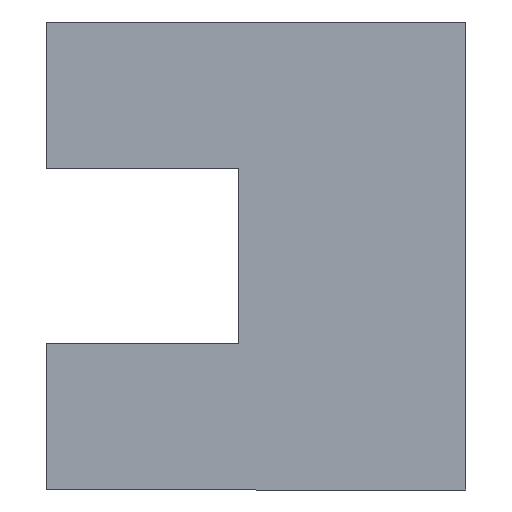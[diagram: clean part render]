
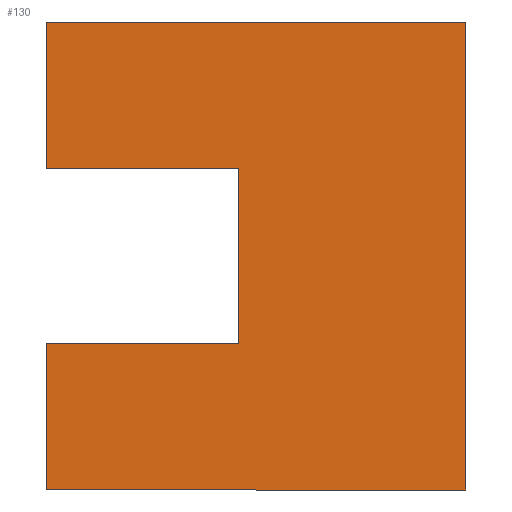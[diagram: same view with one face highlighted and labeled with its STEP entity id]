
A CAD part, left-side view. The second image highlights one B-rep face of the part: STEP entity #130.
In plain terms, the highlighted planar face has unit normal (-1, 0, 0) as drawn and (0, 0, -1) by its records, which use the part's own axes.
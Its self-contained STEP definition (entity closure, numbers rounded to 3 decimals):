
#31 = VERTEX_POINT ( 'NONE', #259 ) ;
#72 = EDGE_CURVE ( 'NONE', #31, #73, #494, .T. ) ;
#73 = VERTEX_POINT ( 'NONE', #490 ) ;
#119 = EDGE_CURVE ( 'NONE', #233, #120, #532, .T. ) ;
#120 = VERTEX_POINT ( 'NONE', #528 ) ;
#123 = ORIENTED_EDGE ( 'NONE', *, *, #124, .T. ) ;
#124 = EDGE_CURVE ( 'NONE', #134, #125, #589, .T. ) ;
#125 = VERTEX_POINT ( 'NONE', #585 ) ;
#126 = ORIENTED_EDGE ( 'NONE', *, *, #127, .T. ) ;
#127 = EDGE_CURVE ( 'NONE', #125, #120, #584, .T. ) ;
#130 = ADVANCED_FACE ( 'NONE', ( #580 ), #579, .T. ) ;
#131 = EDGE_LOOP ( 'NONE', ( #132, #123, #126, #234, #235, #225, #135, #136 ) ) ;
#132 = ORIENTED_EDGE ( 'NONE', *, *, #133, .T. ) ;
#133 = EDGE_CURVE ( 'NONE', #302, #134, #574, .T. ) ;
#134 = VERTEX_POINT ( 'NONE', #570 ) ;
#135 = ORIENTED_EDGE ( 'NONE', *, *, #201, .F. ) ;
#136 = ORIENTED_EDGE ( 'NONE', *, *, #212, .F. ) ;
#201 = EDGE_CURVE ( 'NONE', #213, #31, #677, .T. ) ;
#212 = EDGE_CURVE ( 'NONE', #302, #213, #664, .T. ) ;
#213 = VERTEX_POINT ( 'NONE', #724 ) ;
#225 = ORIENTED_EDGE ( 'NONE', *, *, #72, .F. ) ;
#232 = EDGE_CURVE ( 'NONE', #73, #233, #711, .T. ) ;
#233 = VERTEX_POINT ( 'NONE', #707 ) ;
#234 = ORIENTED_EDGE ( 'NONE', *, *, #119, .F. ) ;
#235 = ORIENTED_EDGE ( 'NONE', *, *, #232, .F. ) ;
#259 = CARTESIAN_POINT ( 'NONE',  ( -6.7, 0., -3. ) ) ;
#302 = VERTEX_POINT ( 'NONE', #726 ) ;
#490 = CARTESIAN_POINT ( 'NONE',  ( 6.7, 0., -3. ) ) ;
#491 = DIRECTION ( 'NONE',  ( 1., 0., 0. ) ) ;
#492 = VECTOR ( 'NONE', #491, 1000. ) ;
#493 = CARTESIAN_POINT ( 'NONE',  ( -6.7, 0., -3. ) ) ;
#494 = LINE ( 'NONE', #493, #492 ) ;
#528 = CARTESIAN_POINT ( 'NONE',  ( 2.5, 12., -3. ) ) ;
#529 = DIRECTION ( 'NONE',  ( -1., 0., 0. ) ) ;
#530 = VECTOR ( 'NONE', #529, 1000. ) ;
#531 = CARTESIAN_POINT ( 'NONE',  ( -6.7, 12., -3. ) ) ;
#532 = LINE ( 'NONE', #531, #530 ) ;
#570 = CARTESIAN_POINT ( 'NONE',  ( -2.5, 6.5, -3. ) ) ;
#571 = DIRECTION ( 'NONE',  ( 0., -1., 0. ) ) ;
#572 = VECTOR ( 'NONE', #571, 1000. ) ;
#573 = CARTESIAN_POINT ( 'NONE',  ( -2.5, 12., -3. ) ) ;
#574 = LINE ( 'NONE', #573, #572 ) ;
#575 = DIRECTION ( 'NONE',  ( -1., 0., 0. ) ) ;
#576 = DIRECTION ( 'NONE',  ( 0., 0., -1. ) ) ;
#577 = CARTESIAN_POINT ( 'NONE',  ( -6.7, 12., -3. ) ) ;
#578 = AXIS2_PLACEMENT_3D ( 'NONE', #577, #576, #575 ) ;
#579 = PLANE ( 'NONE',  #578 ) ;
#580 = FACE_OUTER_BOUND ( 'NONE', #131, .T. ) ;
#581 = DIRECTION ( 'NONE',  ( 0., 1., 0. ) ) ;
#582 = VECTOR ( 'NONE', #581, 1000. ) ;
#583 = CARTESIAN_POINT ( 'NONE',  ( 2.5, 12., -3. ) ) ;
#584 = LINE ( 'NONE', #583, #582 ) ;
#585 = CARTESIAN_POINT ( 'NONE',  ( 2.5, 6.5, -3. ) ) ;
#586 = DIRECTION ( 'NONE',  ( 1., 0., 0. ) ) ;
#587 = VECTOR ( 'NONE', #586, 1000. ) ;
#588 = CARTESIAN_POINT ( 'NONE',  ( -2.5, 6.5, -3. ) ) ;
#589 = LINE ( 'NONE', #588, #587 ) ;
#661 = DIRECTION ( 'NONE',  ( -1., 0., 0. ) ) ;
#662 = VECTOR ( 'NONE', #661, 1000. ) ;
#663 = CARTESIAN_POINT ( 'NONE',  ( -6.7, 12., -3. ) ) ;
#664 = LINE ( 'NONE', #663, #662 ) ;
#674 = DIRECTION ( 'NONE',  ( 0., -1., 0. ) ) ;
#675 = VECTOR ( 'NONE', #674, 1000. ) ;
#676 = CARTESIAN_POINT ( 'NONE',  ( -6.7, 0., -3. ) ) ;
#677 = LINE ( 'NONE', #676, #675 ) ;
#707 = CARTESIAN_POINT ( 'NONE',  ( 6.7, 12., -3. ) ) ;
#708 = DIRECTION ( 'NONE',  ( 0., 1., 0. ) ) ;
#709 = VECTOR ( 'NONE', #708, 1000. ) ;
#710 = CARTESIAN_POINT ( 'NONE',  ( 6.7, 0., -3. ) ) ;
#711 = LINE ( 'NONE', #710, #709 ) ;
#724 = CARTESIAN_POINT ( 'NONE',  ( -6.7, 12., -3. ) ) ;
#726 = CARTESIAN_POINT ( 'NONE',  ( -2.5, 12., -3. ) ) ;
